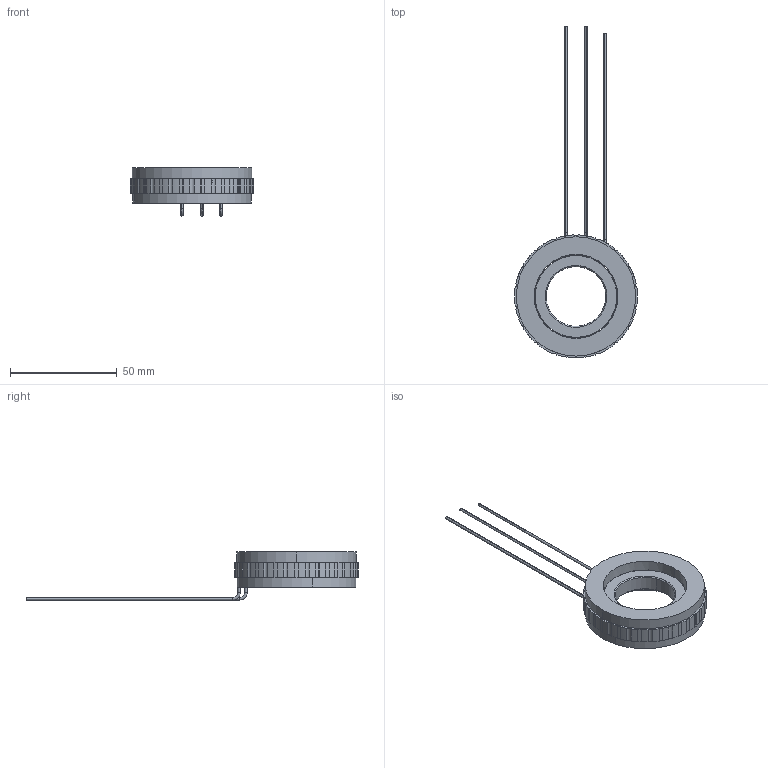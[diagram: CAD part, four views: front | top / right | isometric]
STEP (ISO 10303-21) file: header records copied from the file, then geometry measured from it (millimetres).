
FILE_DESCRIPTION (( 'STEP AP203' ), '1' );
FILE_NAME ('307090316SS£¨FMC05707-0011-3528N-8DS00£©-V1.0.STEP', '2025-04-24T03:33:32', ( '' ), ( '' ), 'SwSTEP 2.0', 'SolidWorks 2023', '' );
FILE_SCHEMA (( 'CONFIG_CONTROL_DESIGN' ));
Length unit declared in the file: millimetre
Products named in the file (1): 307090316SS（FMC05707-0011-3528N-8DS00）-V1.0
Bounding box: 57.78 x 155.86 x 22.6 mm (x, y, z)
Volume: 24406 mm3; surface area: 17302.5 mm2
Topology: 6 solids, 6 shells, 1177 faces, 3335 edges, 2218 vertices
Faces by surface type: plane 504, bspline 368, cylinder 295, torus 6, cone 4
Entity records: 62884 total; most frequent: CARTESIAN_POINT 34719, ORIENTED_EDGE 6670, DIRECTION 4583, EDGE_CURVE 3335, VERTEX_POINT 2218, LINE 1651, VECTOR 1651, AXIS2_PLACEMENT_3D 1466
